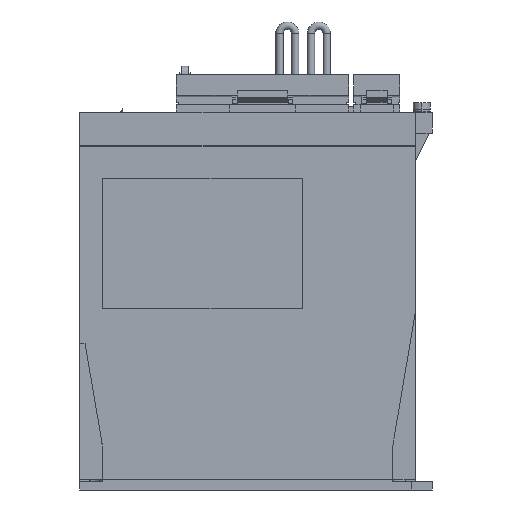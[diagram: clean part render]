
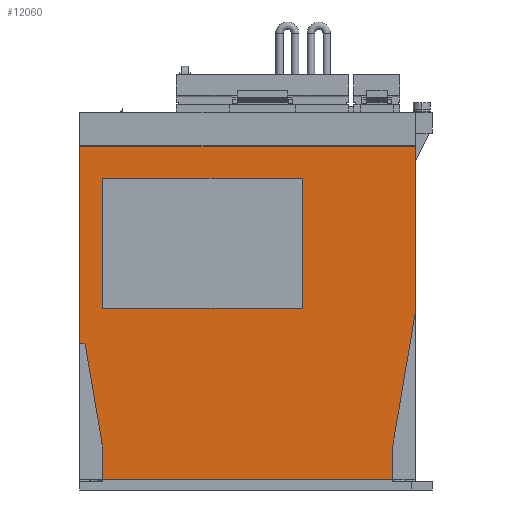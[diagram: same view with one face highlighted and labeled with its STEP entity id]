
A CAD part, left-side view. The second image highlights one B-rep face of the part: STEP entity #12060.
In plain terms, the highlighted planar face has unit normal (-1, 0, 0).
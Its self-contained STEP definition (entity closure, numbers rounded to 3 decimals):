
#10303 = VERTEX_POINT ( 'NONE', #37792 ) ;
#10305 = EDGE_CURVE ( 'NONE', #10332, #10303, #37856, .T. ) ;
#10332 = VERTEX_POINT ( 'NONE', #37871 ) ;
#11983 = EDGE_CURVE ( 'NONE', #12072, #11984, #40689, .T. ) ;
#11984 = VERTEX_POINT ( 'NONE', #40685 ) ;
#12028 = EDGE_CURVE ( 'NONE', #12113, #12029, #40743, .T. ) ;
#12029 = VERTEX_POINT ( 'NONE', #40739 ) ;
#12030 = ORIENTED_EDGE ( 'NONE', *, *, #12031, .F. ) ;
#12031 = EDGE_CURVE ( 'NONE', #12032, #12029, #40801, .T. ) ;
#12032 = VERTEX_POINT ( 'NONE', #40797 ) ;
#12033 = ORIENTED_EDGE ( 'NONE', *, *, #12034, .T. ) ;
#12034 = EDGE_CURVE ( 'NONE', #12032, #11984, #40796, .T. ) ;
#12035 = ORIENTED_EDGE ( 'NONE', *, *, #11983, .F. ) ;
#12036 = ORIENTED_EDGE ( 'NONE', *, *, #12097, .F. ) ;
#12037 = EDGE_CURVE ( 'NONE', #12038, #12064, #40792, .T. ) ;
#12038 = VERTEX_POINT ( 'NONE', #40788 ) ;
#12039 = ORIENTED_EDGE ( 'NONE', *, *, #12040, .F. ) ;
#12040 = EDGE_CURVE ( 'NONE', #12041, #12038, #40787, .T. ) ;
#12041 = VERTEX_POINT ( 'NONE', #40783 ) ;
#12042 = ORIENTED_EDGE ( 'NONE', *, *, #12043, .F. ) ;
#12043 = EDGE_CURVE ( 'NONE', #12065, #12041, #40782, .T. ) ;
#12044 = EDGE_LOOP ( 'NONE', ( #12045, #12046, #12049, #12111, #12114, #12030, #12033, #12035, #12036 ) ) ;
#12045 = ORIENTED_EDGE ( 'NONE', *, *, #10305, .T. ) ;
#12046 = ORIENTED_EDGE ( 'NONE', *, *, #12047, .T. ) ;
#12047 = EDGE_CURVE ( 'NONE', #10303, #12048, #40778, .T. ) ;
#12048 = VERTEX_POINT ( 'NONE', #40774 ) ;
#12049 = ORIENTED_EDGE ( 'NONE', *, *, #12050, .F. ) ;
#12050 = EDGE_CURVE ( 'NONE', #12051, #12048, #40773, .T. ) ;
#12051 = VERTEX_POINT ( 'NONE', #40769 ) ;
#12060 = ADVANCED_FACE ( 'NONE', ( #40820, #40819 ), #40817, .F. ) ;
#12061 = EDGE_LOOP ( 'NONE', ( #12062, #12066, #12039, #12042 ) ) ;
#12062 = ORIENTED_EDGE ( 'NONE', *, *, #12063, .F. ) ;
#12063 = EDGE_CURVE ( 'NONE', #12064, #12065, #40812, .T. ) ;
#12064 = VERTEX_POINT ( 'NONE', #40808 ) ;
#12065 = VERTEX_POINT ( 'NONE', #40807 ) ;
#12066 = ORIENTED_EDGE ( 'NONE', *, *, #12037, .F. ) ;
#12072 = VERTEX_POINT ( 'NONE', #40862 ) ;
#12097 = EDGE_CURVE ( 'NONE', #10332, #12072, #40881, .T. ) ;
#12111 = ORIENTED_EDGE ( 'NONE', *, *, #12112, .T. ) ;
#12112 = EDGE_CURVE ( 'NONE', #12051, #12113, #40917, .T. ) ;
#12113 = VERTEX_POINT ( 'NONE', #40913 ) ;
#12114 = ORIENTED_EDGE ( 'NONE', *, *, #12028, .T. ) ;
#37792 = CARTESIAN_POINT ( 'NONE',  ( -6., 5., 70. ) ) ;
#37853 = DIRECTION ( 'NONE',  ( 0., 0., -1. ) ) ;
#37854 = VECTOR ( 'NONE', #37853, 1000. ) ;
#37855 = CARTESIAN_POINT ( 'NONE',  ( -6., 5., 338.642 ) ) ;
#37856 = LINE ( 'NONE', #37855, #37854 ) ;
#37871 = CARTESIAN_POINT ( 'NONE',  ( -6., 5., 163.8 ) ) ;
#40685 = CARTESIAN_POINT ( 'NONE',  ( -6., -155., 85. ) ) ;
#40686 = DIRECTION ( 'NONE',  ( 0., 0., -1. ) ) ;
#40687 = VECTOR ( 'NONE', #40686, 1000. ) ;
#40688 = CARTESIAN_POINT ( 'NONE',  ( -6., -155., 338.642 ) ) ;
#40689 = LINE ( 'NONE', #40688, #40687 ) ;
#40739 = CARTESIAN_POINT ( 'NONE',  ( -6., -144., 5.2 ) ) ;
#40740 = DIRECTION ( 'NONE',  ( 0., -1., 0. ) ) ;
#40741 = VECTOR ( 'NONE', #40740, 1000. ) ;
#40742 = CARTESIAN_POINT ( 'NONE',  ( -6., -6., 5.2 ) ) ;
#40743 = LINE ( 'NONE', #40742, #40741 ) ;
#40769 = CARTESIAN_POINT ( 'NONE',  ( -6., -6., 20. ) ) ;
#40770 = DIRECTION ( 'NONE',  ( 0., 0.167, 0.986 ) ) ;
#40771 = VECTOR ( 'NONE', #40770, 1000. ) ;
#40772 = CARTESIAN_POINT ( 'NONE',  ( -6., -6., 20. ) ) ;
#40773 = LINE ( 'NONE', #40772, #40771 ) ;
#40774 = CARTESIAN_POINT ( 'NONE',  ( -6., 2.462, 70. ) ) ;
#40775 = DIRECTION ( 'NONE',  ( 0., -1., 0. ) ) ;
#40776 = VECTOR ( 'NONE', #40775, 1000. ) ;
#40777 = CARTESIAN_POINT ( 'NONE',  ( -6., 5., 70. ) ) ;
#40778 = LINE ( 'NONE', #40777, #40776 ) ;
#40779 = DIRECTION ( 'NONE',  ( 0., 1., 0. ) ) ;
#40780 = VECTOR ( 'NONE', #40779, 1000. ) ;
#40781 = CARTESIAN_POINT ( 'NONE',  ( -6., -6., 148.6 ) ) ;
#40782 = LINE ( 'NONE', #40781, #40780 ) ;
#40783 = CARTESIAN_POINT ( 'NONE',  ( -6., -6., 148.6 ) ) ;
#40784 = DIRECTION ( 'NONE',  ( 0., 0., -1. ) ) ;
#40785 = VECTOR ( 'NONE', #40784, 1000. ) ;
#40786 = CARTESIAN_POINT ( 'NONE',  ( -6., -6., 86.6 ) ) ;
#40787 = LINE ( 'NONE', #40786, #40785 ) ;
#40788 = CARTESIAN_POINT ( 'NONE',  ( -6., -6., 86.6 ) ) ;
#40789 = DIRECTION ( 'NONE',  ( 0., -1., 0. ) ) ;
#40790 = VECTOR ( 'NONE', #40789, 1000. ) ;
#40791 = CARTESIAN_POINT ( 'NONE',  ( -6., -6., 86.6 ) ) ;
#40792 = LINE ( 'NONE', #40791, #40790 ) ;
#40793 = DIRECTION ( 'NONE',  ( 0., -0.167, 0.986 ) ) ;
#40794 = VECTOR ( 'NONE', #40793, 1000. ) ;
#40795 = CARTESIAN_POINT ( 'NONE',  ( -6., -144., 20. ) ) ;
#40796 = LINE ( 'NONE', #40795, #40794 ) ;
#40797 = CARTESIAN_POINT ( 'NONE',  ( -6., -144., 20. ) ) ;
#40798 = DIRECTION ( 'NONE',  ( 0., 0., -1. ) ) ;
#40799 = VECTOR ( 'NONE', #40798, 1000. ) ;
#40800 = CARTESIAN_POINT ( 'NONE',  ( -6., -144., 20. ) ) ;
#40801 = LINE ( 'NONE', #40800, #40799 ) ;
#40807 = CARTESIAN_POINT ( 'NONE',  ( -6., -101., 148.6 ) ) ;
#40808 = CARTESIAN_POINT ( 'NONE',  ( -6., -101., 86.6 ) ) ;
#40809 = DIRECTION ( 'NONE',  ( 0., 0., 1. ) ) ;
#40810 = VECTOR ( 'NONE', #40809, 1000. ) ;
#40811 = CARTESIAN_POINT ( 'NONE',  ( -6., -101., 86.6 ) ) ;
#40812 = LINE ( 'NONE', #40811, #40810 ) ;
#40813 = DIRECTION ( 'NONE',  ( 0., 1., 0. ) ) ;
#40814 = DIRECTION ( 'NONE',  ( 1., 0., 0. ) ) ;
#40815 = CARTESIAN_POINT ( 'NONE',  ( -6., 5., 338.642 ) ) ;
#40816 = AXIS2_PLACEMENT_3D ( 'NONE', #40815, #40814, #40813 ) ;
#40817 = PLANE ( 'NONE',  #40816 ) ;
#40819 = FACE_OUTER_BOUND ( 'NONE', #12044, .T. ) ;
#40820 = FACE_BOUND ( 'NONE', #12061, .T. ) ;
#40862 = CARTESIAN_POINT ( 'NONE',  ( -6., -155., 163.8 ) ) ;
#40878 = DIRECTION ( 'NONE',  ( 0., -1., 0. ) ) ;
#40879 = VECTOR ( 'NONE', #40878, 1000. ) ;
#40880 = CARTESIAN_POINT ( 'NONE',  ( -6., 5., 163.8 ) ) ;
#40881 = LINE ( 'NONE', #40880, #40879 ) ;
#40913 = CARTESIAN_POINT ( 'NONE',  ( -6., -6., 5.2 ) ) ;
#40914 = DIRECTION ( 'NONE',  ( 0., 0., -1. ) ) ;
#40915 = VECTOR ( 'NONE', #40914, 1000. ) ;
#40916 = CARTESIAN_POINT ( 'NONE',  ( -6., -6., 20. ) ) ;
#40917 = LINE ( 'NONE', #40916, #40915 ) ;
